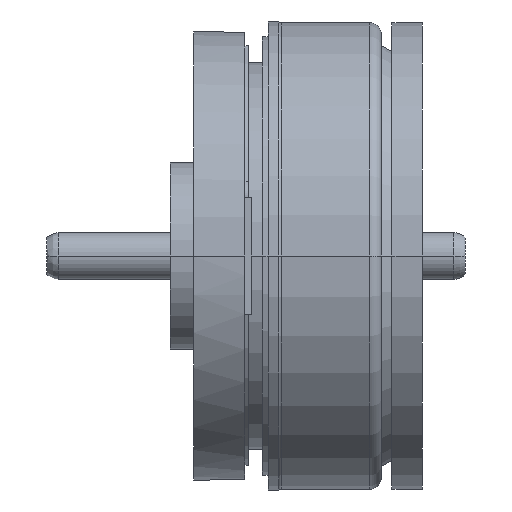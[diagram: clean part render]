
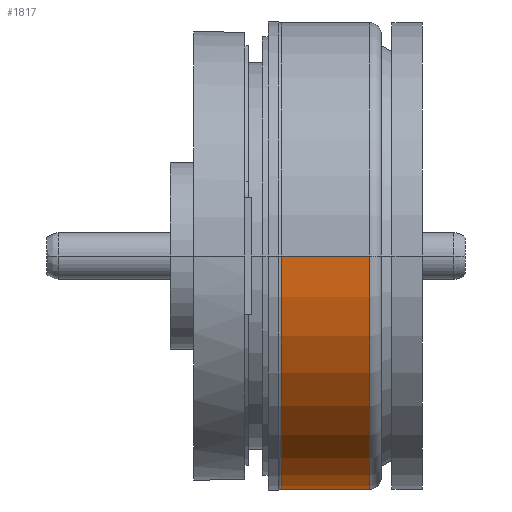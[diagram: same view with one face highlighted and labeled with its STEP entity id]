
A CAD part, front view. The second image highlights one B-rep face of the part: STEP entity #1817.
In plain terms, the highlighted cylindrical face has radius 10 mm (diameter 20 mm), a partial arc.
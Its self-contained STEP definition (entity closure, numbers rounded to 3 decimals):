
#550=CARTESIAN_POINT('',(1.559,0.,0.));
#551=DIRECTION('',(-1.,0.,0.));
#552=DIRECTION('',(0.,1.,0.));
#553=AXIS2_PLACEMENT_3D('',#550,#551,#552);
#558=CARTESIAN_POINT('',(5.35,0.,0.));
#559=DIRECTION('',(-1.,0.,0.));
#560=DIRECTION('',(0.,1.,0.));
#561=AXIS2_PLACEMENT_3D('',#558,#559,#560);
#566=DIRECTION('',(-1.,0.,0.));
#567=VECTOR('',#566,3.791);
#568=CARTESIAN_POINT('',(5.35,10.,0.));
#569=LINE('',#568,#567);
#581=DIRECTION('',(-1.,0.,0.));
#582=VECTOR('',#581,3.791);
#583=CARTESIAN_POINT('',(5.35,-10.,0.));
#584=LINE('',#583,#582);
#1248=CARTESIAN_POINT('',(5.35,10.,0.));
#1250=VERTEX_POINT('',#1248);
#1251=CARTESIAN_POINT('',(1.559,10.,0.));
#1252=VERTEX_POINT('',#1251);
#1274=CARTESIAN_POINT('',(5.35,-10.,0.));
#1276=VERTEX_POINT('',#1274);
#1277=CARTESIAN_POINT('',(1.559,-10.,0.));
#1278=VERTEX_POINT('',#1277);
#1803=CARTESIAN_POINT('',(10.348,0.,0.));
#1804=DIRECTION('',(-1.,0.,0.));
#1805=DIRECTION('',(0.,1.,0.));
#1806=AXIS2_PLACEMENT_3D('',#1803,#1804,#1805);
#1807=CYLINDRICAL_SURFACE('',#1806,10.);
#1809=ORIENTED_EDGE('',*,*,#1808,.T.);
#1810=ORIENTED_EDGE('',*,*,#1798,.T.);
#1812=ORIENTED_EDGE('',*,*,#1811,.F.);
#1814=ORIENTED_EDGE('',*,*,#1813,.F.);
#1815=EDGE_LOOP('',(#1809,#1810,#1812,#1814));
#1816=FACE_OUTER_BOUND('',#1815,.F.);
#1817=ADVANCED_FACE('',(#1816),#1807,.T.);
#554=CIRCLE('',#553,10.);
#562=CIRCLE('',#561,10.);
#1798=EDGE_CURVE('',#1252,#1278,#554,.T.);
#1808=EDGE_CURVE('',#1250,#1252,#569,.T.);
#1811=EDGE_CURVE('',#1276,#1278,#584,.T.);
#1813=EDGE_CURVE('',#1250,#1276,#562,.T.);
